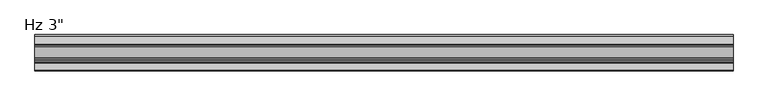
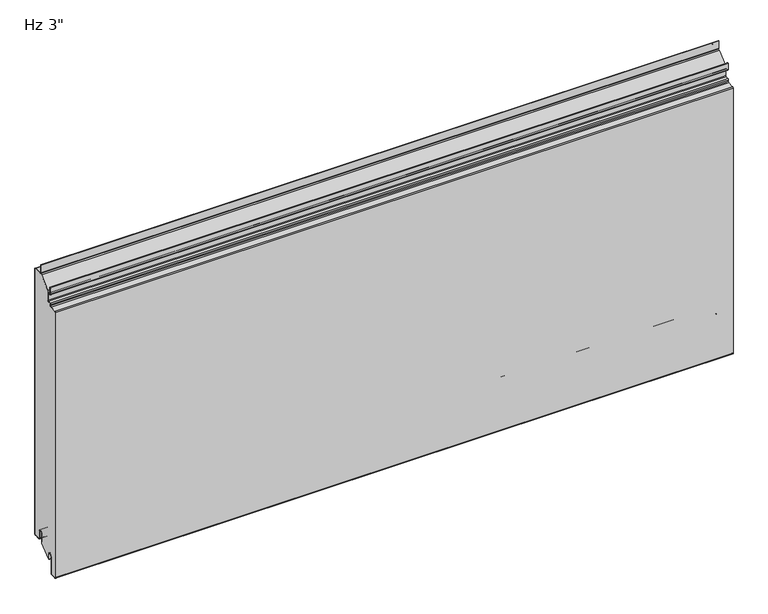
"""IFC4 building model written with IfcOpenShell, lengths in millimetres: plate geometry."""

from ifc_helpers import new_model, si_unit, point, frame, frame_2d, origin, place, context, project, spatial, polyline, circle_curve, ellipse_curve, trimmed, segment, composite_curve, outline, extrude, source, transform, mapped, element, save
from ifc_brep_helpers import plane_surface, cylinder_surface, revolved_surface, extruded_surface, advanced_brep


def plate_e3d8686c(model_context):
    return source(origin(), model_context, "Body", "SolidModel", [
        extrude(outline(composite_curve([segment(trimmed(circle_curve(frame_2d((-21.43125, 19.05)), 4.96875), [point((-16.4625, 19.05))], [point((-26.4, 19.05))], True, "CARTESIAN"), True, "CONTINUOUS"), segment(polyline([(-26.4, 19.05), (-26.4, -3.1323422), (-49.2157227, -23.01875), (-50.8, -23.01875), (-50.8, -13.5080174), (-51.59375, -13.5080174), (-51.3875, -11.9205174)]), True, "CONTINUOUS"), segment(trimmed(circle_curve(frame_2d((-56.35625, -11.9205174)), 4.96875), [point((-51.3875, -11.9205174))], [point((-61.325, -11.9205174))], True, "CARTESIAN"), True, "CONTINUOUS"), segment(polyline([(-61.325, -11.9205174), (-61.325, -50.1038221)]), True, "CONTINUOUS"), segment(trimmed(circle_curve(frame_2d((-62.70625, -50.1038221)), 1.38125), [point((-61.325, -50.1038221))], [point((-62.633961, -51.4831791))], False, "CARTESIAN"), True, "CONTINUOUS"), segment(polyline([(-62.633961, -51.4831791), (-73.746461, -52.0655606)]), True, "CONTINUOUS"), segment(trimmed(circle_curve(frame_2d((-73.81875, -50.6862035)), 1.38125), [point((-73.746461, -52.0655606))], [point((-75.2, -50.6862035))], False, "CARTESIAN"), True, "CONTINUOUS"), segment(polyline([(-75.2, -50.6862035), (-75.2, 552.5572607)]), True, "CONTINUOUS"), segment(trimmed(circle_curve(frame_2d((-73.81875, 552.5572607)), 1.38125), [point((-75.2, 552.5572607))], [point((-73.891039, 553.9366177))], False, "CARTESIAN"), True, "CONTINUOUS"), segment(polyline([(-73.891039, 553.9366177), (-60.1895807, 554.6546807)]), True, "CONTINUOUS"), segment(trimmed(circle_curve(frame_2d((-60.325, 557.2386347)), 2.5875), [point((-60.1895807, 554.6546807))], [point((-57.7375, 557.2386347))], True, "CARTESIAN"), True, "CONTINUOUS"), segment(polyline([(-57.7375, 557.2386347), (-57.7375, 560.2824411)]), True, "CONTINUOUS"), segment(trimmed(circle_curve(frame_2d((-56.35625, 560.2824411)), 1.38125), [point((-57.7375, 560.2824411))], [point((-56.428539, 561.6617981))], False, "CARTESIAN"), True, "CONTINUOUS"), segment(polyline([(-56.428539, 561.6617981), (-50.6645807, 561.9638744)]), True, "CONTINUOUS"), segment(trimmed(circle_curve(frame_2d((-50.8, 564.5478283)), 2.5875), [point((-50.6645807, 561.9638744))], [point((-48.2125, 564.5478283))], True, "CARTESIAN"), True, "CONTINUOUS"), segment(polyline([(-48.2125, 564.5478283), (-48.2125, 586.9892934), (-24.9057308, 607.80625), (-2.38125, 607.80625)]), True, "CONTINUOUS"), segment(trimmed(circle_curve(frame_2d((-2.38125, 606.425)), 1.38125), [point((-2.38125, 607.80625))], [point((-1.0, 606.425))], False, "CARTESIAN"), True, "CONTINUOUS"), segment(polyline([(-1.0, 606.425), (-1.0, 3.175)]), True, "CONTINUOUS"), segment(trimmed(circle_curve(frame_2d((-2.38125, 3.175)), 1.38125), [point((-1.0, 3.175))], [point((-2.38125, 1.79375))], False, "CARTESIAN"), True, "CONTINUOUS"), segment(polyline([(-2.38125, 1.79375), (-15.08125, 1.79375)]), True, "CONTINUOUS"), segment(trimmed(circle_curve(frame_2d((-15.08125, 3.175)), 1.38125), [point((-15.08125, 1.79375))], [point((-16.4625, 3.175))], False, "CARTESIAN"), True, "CONTINUOUS"), segment(polyline([(-16.4625, 3.175), (-16.4625, 19.05)]), True, "CONTINUOUS")], self_intersect=False)), frame((-730.0, 0.0, 0.0), z_axis=(1.0, 0.0, 0.0), x_axis=(0.0, 1.0, 0.0)), (0.0, 0.0, 1.0), 1460.0),
        extrude(outline(composite_curve([segment(polyline([(-25.4, 0.79375), (-26.4, 0.79375), (-26.4, 19.05)]), True, "CONTINUOUS"), segment(trimmed(circle_curve(frame_2d((-21.43125, 19.05)), 4.96875), [point((-26.4, 19.05))], [point((-16.4625, 19.05))], False, "CARTESIAN"), True, "CONTINUOUS"), segment(polyline([(-16.4625, 19.05), (-16.4625, 3.175)]), True, "CONTINUOUS"), segment(trimmed(circle_curve(frame_2d((-15.08125, 3.175)), 1.38125), [point((-16.4625, 3.175))], [point((-15.08125, 1.79375))], True, "CARTESIAN"), True, "CONTINUOUS"), segment(polyline([(-15.08125, 1.79375), (-2.38125, 1.79375)]), True, "CONTINUOUS"), segment(trimmed(circle_curve(frame_2d((-2.38125, 3.175)), 1.38125), [point((-2.38125, 1.79375))], [point((-1.0, 3.175))], True, "CARTESIAN"), True, "CONTINUOUS"), segment(polyline([(-1.0, 3.175), (-1.0, 606.425)]), True, "CONTINUOUS"), segment(trimmed(circle_curve(frame_2d((-2.38125, 606.425)), 1.38125), [point((-1.0, 606.425))], [point((-2.38125, 607.80625))], True, "CARTESIAN"), True, "CONTINUOUS"), segment(polyline([(-2.38125, 607.80625), (-19.446875, 607.80625)]), True, "CONTINUOUS"), segment(trimmed(circle_curve(frame_2d((-19.446875, 610.39375)), 2.5875), [point((-19.446875, 607.80625))], [point((-22.034375, 610.39375))], False, "CARTESIAN"), True, "CONTINUOUS"), segment(polyline([(-22.034375, 610.39375), (-22.034375, 627.85625), (-21.034375, 627.85625), (-21.034375, 610.39375)]), True, "CONTINUOUS"), segment(trimmed(circle_curve(frame_2d((-19.446875, 610.39375)), 1.5875), [point((-21.034375, 610.39375))], [point((-19.446875, 608.80625))], True, "CARTESIAN"), True, "CONTINUOUS"), segment(polyline([(-19.446875, 608.80625), (-2.38125, 608.80625)]), True, "CONTINUOUS"), segment(trimmed(circle_curve(frame_2d((-2.38125, 606.425)), 2.38125), [point((-2.38125, 608.80625))], [point((0.0, 606.425))], False, "CARTESIAN"), True, "CONTINUOUS"), segment(polyline([(0.0, 606.425), (0.0, 3.175)]), True, "CONTINUOUS"), segment(trimmed(circle_curve(frame_2d((-2.38125, 3.175)), 2.38125), [point((0.0, 3.175))], [point((-2.38125, 0.79375))], False, "CARTESIAN"), True, "CONTINUOUS"), segment(polyline([(-2.38125, 0.79375), (-15.08125, 0.79375)]), True, "CONTINUOUS"), segment(trimmed(circle_curve(frame_2d((-15.08125, 3.175)), 2.38125), [point((-15.08125, 0.79375))], [point((-17.4625, 3.175))], False, "CARTESIAN"), True, "CONTINUOUS"), segment(polyline([(-17.4625, 3.175), (-17.4625, 19.05)]), True, "CONTINUOUS"), segment(trimmed(circle_curve(frame_2d((-21.43125, 19.05)), 3.96875), [point((-17.4625, 19.05))], [point((-25.4, 19.05))], True, "CARTESIAN"), True, "CONTINUOUS"), segment(polyline([(-25.4, 19.05), (-25.4, 0.79375)]), True, "CONTINUOUS")], self_intersect=False)), frame((-730.0, 0.0, 0.0), z_axis=(1.0, 0.0, 0.0), x_axis=(0.0, 1.0, 0.0)), (0.0, 0.0, 1.0), 1460.0),
        advanced_brep(
        [(-730.0, -50.8, -23.2314549), (-730.0, -52.3875, -23.2314549), (-730.0, -52.3875, -11.9205174), (-730.0, -60.325, -11.9205174), (-730.0, -60.325, -50.1038221), (-730.0, -62.581625, -52.4818086), (-730.0, -73.694125, -53.0641901), (-730.0, -76.2, -50.6862035), (-730.0, -76.2, 552.5572607), (-730.0, -73.943375, 554.9352473), (-730.0, -60.2419167, 555.6533103), (-730.0, -58.7375, 557.2386347), (-730.0, -58.7375, 560.2824411), (-730.0, -56.480875, 562.6604276), (-730.0, -50.7169167, 562.9625039), (-730.0, -49.2125, 564.5478283), (-730.0, -49.2125, 579.4232326), (-730.0, -50.8, 581.0107326), (-730.0, -54.9671875, 581.0107326), (-730.0, -57.3484375, 583.3919826), (-730.0, -57.3484375, 597.8836032), (-730.0, -55.5546875, 597.8836032), (-730.0, -55.5546875, 588.1544826), (-730.0, -56.3484375, 588.1544826), (-730.0, -56.3484375, 583.3919826), (-730.0, -54.9671875, 582.0107326), (-730.0, -50.8, 582.0107326), (-730.0, -48.2125, 579.4232326), (-730.0, -48.2125, 564.5478283), (-730.0, -50.6645807, 561.9638744), (-730.0, -56.428539, 561.6617981), (-730.0, -57.7375, 560.2824411), (-730.0, -57.7375, 557.2386347), (-730.0, -60.1895807, 554.6546807), (-730.0, -73.891039, 553.9366177), (-730.0, -75.2, 552.5572607), (-730.0, -75.2, -50.6862035), (-730.0, -73.746461, -52.0655606), (-730.0, -62.633961, -51.4831791), (-730.0, -61.325, -50.1038221), (-730.0, -61.325, -11.9205174), (-730.0, -51.3875, -11.9205174), (-730.0, -51.59375, -13.5080174), (-730.0, -50.8, -13.5080174), (730.0, -50.8, -23.2314549), (730.0, -50.8, -13.5080174), (730.0, -51.59375, -13.5080174), (730.0, -51.3875, -11.9205174), (730.0, -61.325, -11.9205174), (730.0, -61.325, -50.1038221), (730.0, -62.633961, -51.4831791), (730.0, -73.746461, -52.0655606), (730.0, -75.2, -50.6862035), (730.0, -75.2, 552.5572607), (730.0, -73.891039, 553.9366177), (730.0, -60.1895807, 554.6546807), (730.0, -57.7375, 557.2386347), (730.0, -57.7375, 560.2824411), (730.0, -56.428539, 561.6617981), (730.0, -50.6645807, 561.9638744), (730.0, -48.2125, 564.5478283), (730.0, -48.2125, 579.4232326), (730.0, -50.8, 582.0107326), (730.0, -54.9671875, 582.0107326), (730.0, -56.3484375, 583.3919826), (730.0, -56.3484375, 588.1544826), (730.0, -55.5546875, 588.1544826), (730.0, -55.5546875, 597.8836032), (730.0, -57.3484375, 597.8836032), (730.0, -57.3484375, 583.3919826), (730.0, -54.9671875, 581.0107326), (730.0, -50.8, 581.0107326), (730.0, -49.2125, 579.4232326), (730.0, -49.2125, 564.5478283), (730.0, -50.7169167, 562.9625039), (730.0, -56.480875, 562.6604276), (730.0, -58.7375, 560.2824411), (730.0, -58.7375, 557.2386347), (730.0, -60.2419167, 555.6533103), (730.0, -73.943375, 554.9352473), (730.0, -76.2, 552.5572607), (730.0, -76.2, -50.6862035), (730.0, -73.694125, -53.0641901), (730.0, -62.581625, -52.4818086), (730.0, -60.325, -50.1038221), (730.0, -60.325, -11.9205174), (730.0, -52.3875, -11.9205174), (730.0, -52.3875, -23.2314549)],
        [
            (0, 1, circle_curve(frame((-730.0, -51.59375, -23.2314549), z_axis=(-1.0, 0.0, 0.0), x_axis=(0.0, 0.0, 1.0)), 0.79375)),
            (1, 2),
            (2, 3, circle_curve(frame((-730.0, -56.35625, -11.9205174), z_axis=(1.0, 0.0, 0.0), x_axis=(0.0, 0.0, 1.0)), 3.96875)),
            (3, 4),
            (4, 5, circle_curve(frame((-730.0, -62.70625, -50.1038221), z_axis=(-1.0, 0.0, 0.0), x_axis=(0.0, 0.0, 1.0)), 2.38125)),
            (5, 6),
            (6, 7, circle_curve(frame((-730.0, -73.81875, -50.6862035), z_axis=(-1.0, 0.0, 0.0), x_axis=(0.0, 0.0, 1.0)), 2.38125)),
            (7, 8),
            (8, 9, circle_curve(frame((-730.0, -73.81875, 552.5572607), z_axis=(-1.0, 0.0, 0.0), x_axis=(0.0, 0.0, 1.0)), 2.38125)),
            (9, 10),
            (10, 11, circle_curve(frame((-730.0, -60.325, 557.2386347), z_axis=(1.0, 0.0, 0.0), x_axis=(0.0, 0.0, 1.0)), 1.5875)),
            (11, 12),
            (12, 13, circle_curve(frame((-730.0, -56.35625, 560.2824411), z_axis=(-1.0, 0.0, 0.0), x_axis=(0.0, 0.0, 1.0)), 2.38125)),
            (13, 14),
            (14, 15, circle_curve(frame((-730.0, -50.8, 564.5478283), z_axis=(1.0, 0.0, 0.0), x_axis=(0.0, 0.0, 1.0)), 1.5875)),
            (15, 16),
            (16, 17, circle_curve(frame((-730.0, -50.8, 579.4232326), z_axis=(1.0, 0.0, 0.0), x_axis=(0.0, 0.0, 1.0)), 1.5875)),
            (17, 18),
            (18, 19, circle_curve(frame((-730.0, -54.9671875, 583.3919826), z_axis=(-1.0, 0.0, 0.0), x_axis=(0.0, 0.0, 1.0)), 2.38125)),
            (19, 20),
            (20, 21, ellipse_curve(frame((-730.0, -56.4515625, 597.8836032), z_axis=(-1.0, 0.0, 0.0), x_axis=(0.0, 1.0, 0.0)), 0.896875, 0.7852275)),
            (21, 22),
            (22, 23),
            (23, 24),
            (24, 25, circle_curve(frame((-730.0, -54.9671875, 583.3919826), z_axis=(1.0, 0.0, 0.0), x_axis=(0.0, 0.0, 1.0)), 1.38125)),
            (25, 26),
            (26, 27, circle_curve(frame((-730.0, -50.8, 579.4232326), z_axis=(-1.0, 0.0, 0.0), x_axis=(0.0, 0.0, 1.0)), 2.5875)),
            (27, 28),
            (28, 29, circle_curve(frame((-730.0, -50.8, 564.5478283), z_axis=(-1.0, 0.0, 0.0), x_axis=(0.0, 0.0, 1.0)), 2.5875)),
            (29, 30),
            (30, 31, circle_curve(frame((-730.0, -56.35625, 560.2824411), z_axis=(1.0, 0.0, 0.0), x_axis=(0.0, 0.0, 1.0)), 1.38125)),
            (31, 32),
            (32, 33, circle_curve(frame((-730.0, -60.325, 557.2386347), z_axis=(-1.0, 0.0, 0.0), x_axis=(0.0, 0.0, 1.0)), 2.5875)),
            (33, 34),
            (34, 35, circle_curve(frame((-730.0, -73.81875, 552.5572607), z_axis=(1.0, 0.0, 0.0), x_axis=(0.0, 0.0, 1.0)), 1.38125)),
            (35, 36),
            (36, 37, circle_curve(frame((-730.0, -73.81875, -50.6862035), z_axis=(1.0, 0.0, 0.0), x_axis=(0.0, 0.0, 1.0)), 1.38125)),
            (37, 38),
            (38, 39, circle_curve(frame((-730.0, -62.70625, -50.1038221), z_axis=(1.0, 0.0, 0.0), x_axis=(0.0, 0.0, 1.0)), 1.38125)),
            (39, 40),
            (40, 41, circle_curve(frame((-730.0, -56.35625, -11.9205174), z_axis=(-1.0, 0.0, 0.0), x_axis=(0.0, 0.0, 1.0)), 4.96875)),
            (41, 42),
            (42, 43),
            (43, 0),
            (44, 45),
            (45, 46),
            (46, 47),
            (47, 48, circle_curve(frame((730.0, -56.35625, -11.9205174), z_axis=(1.0, 0.0, 0.0), x_axis=(0.0, 0.0, 1.0)), 4.96875)),
            (48, 49),
            (49, 50, circle_curve(frame((730.0, -62.70625, -50.1038221), z_axis=(-1.0, 0.0, 0.0), x_axis=(0.0, 0.0, 1.0)), 1.38125)),
            (50, 51),
            (51, 52, circle_curve(frame((730.0, -73.81875, -50.6862035), z_axis=(-1.0, 0.0, 0.0), x_axis=(0.0, 0.0, 1.0)), 1.38125)),
            (52, 53),
            (53, 54, circle_curve(frame((730.0, -73.81875, 552.5572607), z_axis=(-1.0, 0.0, 0.0), x_axis=(0.0, 0.0, 1.0)), 1.38125)),
            (54, 55),
            (55, 56, circle_curve(frame((730.0, -60.325, 557.2386347), z_axis=(1.0, 0.0, 0.0), x_axis=(0.0, 0.0, 1.0)), 2.5875)),
            (56, 57),
            (57, 58, circle_curve(frame((730.0, -56.35625, 560.2824411), z_axis=(-1.0, 0.0, 0.0), x_axis=(0.0, 0.0, 1.0)), 1.38125)),
            (58, 59),
            (59, 60, circle_curve(frame((730.0, -50.8, 564.5478283), z_axis=(1.0, 0.0, 0.0), x_axis=(0.0, 0.0, 1.0)), 2.5875)),
            (60, 61),
            (61, 62, circle_curve(frame((730.0, -50.8, 579.4232326), z_axis=(1.0, 0.0, 0.0), x_axis=(0.0, 0.0, 1.0)), 2.5875)),
            (62, 63),
            (63, 64, circle_curve(frame((730.0, -54.9671875, 583.3919826), z_axis=(-1.0, 0.0, 0.0), x_axis=(0.0, 0.0, 1.0)), 1.38125)),
            (64, 65),
            (65, 66),
            (66, 67),
            (67, 68, ellipse_curve(frame((730.0, -56.4515625, 597.8836032), z_axis=(1.0, 0.0, 0.0), x_axis=(0.0, 1.0, 0.0)), 0.896875, 0.7852275)),
            (68, 69),
            (69, 70, circle_curve(frame((730.0, -54.9671875, 583.3919826), z_axis=(1.0, 0.0, 0.0), x_axis=(0.0, 0.0, 1.0)), 2.38125)),
            (70, 71),
            (71, 72, circle_curve(frame((730.0, -50.8, 579.4232326), z_axis=(-1.0, 0.0, 0.0), x_axis=(0.0, 0.0, 1.0)), 1.5875)),
            (72, 73),
            (73, 74, circle_curve(frame((730.0, -50.8, 564.5478283), z_axis=(-1.0, 0.0, 0.0), x_axis=(0.0, 0.0, 1.0)), 1.5875)),
            (74, 75),
            (75, 76, circle_curve(frame((730.0, -56.35625, 560.2824411), z_axis=(1.0, 0.0, 0.0), x_axis=(0.0, 0.0, 1.0)), 2.38125)),
            (76, 77),
            (77, 78, circle_curve(frame((730.0, -60.325, 557.2386347), z_axis=(-1.0, 0.0, 0.0), x_axis=(0.0, 0.0, 1.0)), 1.5875)),
            (78, 79),
            (79, 80, circle_curve(frame((730.0, -73.81875, 552.5572607), z_axis=(1.0, 0.0, 0.0), x_axis=(0.0, 0.0, 1.0)), 2.38125)),
            (80, 81),
            (81, 82, circle_curve(frame((730.0, -73.81875, -50.6862035), z_axis=(1.0, 0.0, 0.0), x_axis=(0.0, 0.0, 1.0)), 2.38125)),
            (82, 83),
            (83, 84, circle_curve(frame((730.0, -62.70625, -50.1038221), z_axis=(1.0, 0.0, 0.0), x_axis=(0.0, 0.0, 1.0)), 2.38125)),
            (84, 85),
            (85, 86, circle_curve(frame((730.0, -56.35625, -11.9205174), z_axis=(-1.0, 0.0, 0.0), x_axis=(0.0, 0.0, 1.0)), 3.96875)),
            (86, 87),
            (87, 44, circle_curve(frame((730.0, -51.59375, -23.2314549), z_axis=(1.0, 0.0, 0.0), x_axis=(0.0, 0.0, 1.0)), 0.79375)),
            (23, 65),
            (64, 24),
            (28, 60),
            (59, 29),
            (58, 30),
            (57, 31),
            (56, 32),
            (55, 33),
            (54, 34),
            (37, 51),
            (50, 38),
            (49, 39),
            (48, 40),
            (43, 45),
            (44, 0),
            (87, 1),
            (86, 2),
            (85, 3),
            (84, 4),
            (83, 5),
            (82, 6),
            (9, 79),
            (78, 10),
            (77, 11),
            (76, 12),
            (75, 13),
            (74, 14),
            (73, 15),
            (72, 16),
            (71, 17),
            (70, 18),
            (69, 19),
            (27, 61),
            (26, 62),
            (25, 63),
            (21, 67),
            (66, 22),
            (20, 68),
            (41, 47),
            (46, 42),
            (53, 35),
            (52, 36),
            (81, 7),
            (80, 8),
        ],
        [
            plane_surface(frame((-730.0, -76.2, 304.8), z_axis=(-1.0, 0.0, 0.0), x_axis=(0.0, -1.0, 0.0))),
            plane_surface(frame((730.0, -76.2, 304.8), z_axis=(1.0, 0.0, 0.0), x_axis=(0.0, -1.0, 0.0))),
            plane_surface(frame((-730.0, -56.3484375, 583.3919826), z_axis=(0.0, 1.0, 0.0), x_axis=(1.0, 0.0, 0.0))),
            cylinder_surface(frame((-730.0, -50.8, 564.5478283), z_axis=(-1.0, 0.0, 0.0), x_axis=(0.0, 0.0, 1.0)), 2.5875),
            plane_surface(frame((-730.0, -56.428539, 561.6617981), z_axis=(0.0, 0.0523359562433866, -0.9986295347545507), x_axis=(1.0, 0.0, 0.0))),
            revolved_surface(polyline([(730.0, -56.35625, 561.6636911), (-730.0, -56.35625, 561.6636911)]), (-730.0, -56.35625, 560.2824411), (1.0, 0.0, 0.0)),
            plane_surface(frame((-730.0, -57.7375, 557.2386347), z_axis=(0.0, 1.0, 0.0), x_axis=(1.0, 0.0, 0.0))),
            cylinder_surface(frame((-730.0, -60.325, 557.2386347), z_axis=(-1.0, 0.0, 0.0), x_axis=(0.0, 0.0, 1.0)), 2.5875),
            plane_surface(frame((-730.0, -73.891039, 553.9366177), z_axis=(0.0, 0.05233595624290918, -0.9986295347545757), x_axis=(1.0, 0.0, 0.0))),
            plane_surface(frame((-730.0, -62.633961, -51.4831791), z_axis=(0.0, -0.05233595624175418, 0.9986295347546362), x_axis=(1.0, 0.0, 0.0))),
            revolved_surface(polyline([(730.0, -62.70625, -48.7225721), (-730.0, -62.70625, -48.7225721)]), (-730.0, -62.70625, -50.1038221), (1.0, 0.0, 0.0)),
            plane_surface(frame((-730.0, -61.325, -11.9205174), z_axis=(0.0, -1.0, 0.0), x_axis=(1.0, 0.0, 0.0))),
            plane_surface(frame((-730.0, -50.8, -23.2314549), z_axis=(0.0, 1.0, 0.0), x_axis=(1.0, 0.0, 0.0))),
            cylinder_surface(frame((-730.0, -51.59375, -23.2314549), z_axis=(-1.0, 0.0, 0.0), x_axis=(0.0, 0.0, 1.0)), 0.79375),
            plane_surface(frame((-730.0, -52.3875, -11.9205174), z_axis=(0.0, -1.0, 0.0), x_axis=(1.0, 0.0, 0.0))),
            revolved_surface(polyline([(730.0, -56.35625, -7.9517674), (-730.0, -56.35625, -7.9517674)]), (-730.0, -56.35625, -11.9205174), (1.0, 0.0, 0.0)),
            plane_surface(frame((-730.0, -60.325, -50.1038221), z_axis=(0.0, 1.0, 0.0), x_axis=(1.0, 0.0, 0.0))),
            cylinder_surface(frame((-730.0, -62.70625, -50.1038221), z_axis=(-1.0, 0.0, 0.0), x_axis=(0.0, 0.0, 1.0)), 2.38125),
            plane_surface(frame((-730.0, -73.694125, -53.0641901), z_axis=(0.0, 0.05233595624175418, -0.9986295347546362), x_axis=(1.0, 0.0, 0.0))),
            plane_surface(frame((-730.0, -60.2419167, 555.6533103), z_axis=(0.0, -0.052335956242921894, 0.998629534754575), x_axis=(1.0, 0.0, 0.0))),
            revolved_surface(polyline([(730.0, -60.325, 558.8261347), (-730.0, -60.325, 558.8261347)]), (-730.0, -60.325, 557.2386347), (1.0, 0.0, 0.0)),
            plane_surface(frame((-730.0, -58.7375, 560.2824411), z_axis=(0.0, -1.0, 0.0), x_axis=(1.0, 0.0, 0.0))),
            cylinder_surface(frame((-730.0, -56.35625, 560.2824411), z_axis=(-1.0, 0.0, 0.0), x_axis=(0.0, 0.0, 1.0)), 2.38125),
            plane_surface(frame((-730.0, -50.7169167, 562.9625039), z_axis=(0.0, -0.05233595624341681, 0.9986295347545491), x_axis=(1.0, 0.0, 0.0))),
            revolved_surface(polyline([(730.0, -50.8, 566.1353283), (-730.0, -50.8, 566.1353283)]), (-730.0, -50.8, 564.5478283), (1.0, 0.0, 0.0)),
            plane_surface(frame((-730.0, -49.2125, 579.4232326), z_axis=(0.0, -1.0, 0.0), x_axis=(1.0, 0.0, 0.0))),
            revolved_surface(polyline([(730.0, -50.8, 581.0107326), (-730.0, -50.8, 581.0107326)]), (-730.0, -50.8, 579.4232326), (1.0, 0.0, 0.0)),
            plane_surface(frame((-730.0, -54.9671875, 581.0107326), z_axis=(0.0, 0.0, -1.0), x_axis=(1.0, 0.0, 0.0))),
            cylinder_surface(frame((-730.0, -54.9671875, 583.3919826), z_axis=(-1.0, 0.0, 0.0), x_axis=(0.0, 0.0, 1.0)), 2.38125),
            plane_surface(frame((-730.0, -48.2125, 564.5478283), z_axis=(0.0, 1.0, 0.0), x_axis=(1.0, 0.0, 0.0))),
            cylinder_surface(frame((-730.0, -50.8, 579.4232326), z_axis=(-1.0, 0.0, 0.0), x_axis=(0.0, 0.0, 1.0)), 2.5875),
            plane_surface(frame((-730.0, -50.8, 582.0107326), z_axis=(0.0, 0.0, 1.0), x_axis=(1.0, 0.0, 0.0))),
            revolved_surface(polyline([(730.0, -54.9671875, 584.7732326), (-730.0, -54.9671875, 584.7732326)]), (-730.0, -54.9671875, 583.3919826), (1.0, 0.0, 0.0)),
            plane_surface(frame((-730.0, -55.5546875, 588.1544826), z_axis=(0.0, 1.0, 0.0), x_axis=(1.0, 0.0, 0.0))),
            extruded_surface(trimmed(ellipse_curve(frame((-730.0, -56.4515625, 597.8836032), z_axis=(1.0, 0.0, 0.0), x_axis=(0.0, 1.0, 0.0)), 0.896875, 0.7852275), [point((-730.0, -55.5546875, 597.8836032))], [point((-730.0, -57.3484375, 597.8836032))], True, "CARTESIAN"), (1460.0, 0.0, 0.0), 1460.0),
            plane_surface(frame((-730.0, -51.59375, -13.5080174), z_axis=(0.0, 0.9916655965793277, -0.12883844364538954), x_axis=(1.0, 0.0, 0.0))),
            cylinder_surface(frame((-730.0, -56.35625, -11.9205174), z_axis=(-1.0, 0.0, 0.0), x_axis=(0.0, 0.0, 1.0)), 4.96875),
            plane_surface(frame((-730.0, -50.8, -13.5080174), z_axis=(0.0, 0.0, 1.0), x_axis=(1.0, 0.0, 0.0))),
            plane_surface(frame((-730.0, -56.3484375, 588.1544826), z_axis=(0.0, 0.0, -1.0), x_axis=(1.0, 0.0, 0.0))),
            revolved_surface(polyline([(730.0, -73.81875, 553.9385107), (-730.0, -73.81875, 553.9385107)]), (-730.0, -73.81875, 552.5572607), (1.0, 0.0, 0.0)),
            plane_surface(frame((-730.0, -75.2, -50.6862035), z_axis=(0.0, 1.0, 0.0), x_axis=(1.0, 0.0, 0.0))),
            revolved_surface(polyline([(730.0, -73.81875, -49.304953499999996), (-730.0, -73.81875, -49.304953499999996)]), (-730.0, -73.81875, -50.6862035), (1.0, 0.0, 0.0)),
            cylinder_surface(frame((-730.0, -73.81875, -50.6862035), z_axis=(-1.0, 0.0, 0.0), x_axis=(0.0, 0.0, 1.0)), 2.38125),
            plane_surface(frame((-730.0, -76.2, 552.5572607), z_axis=(0.0, -1.0, 0.0), x_axis=(1.0, 0.0, 0.0))),
            cylinder_surface(frame((-730.0, -73.81875, 552.5572607), z_axis=(-1.0, 0.0, 0.0), x_axis=(0.0, 0.0, 1.0)), 2.38125),
            plane_surface(frame((-730.0, -57.3484375, 597.8836032), z_axis=(0.0, -1.0, 0.0), x_axis=(1.0, 0.0, 0.0))),
        ],
        [
            (0, [[1, 2, 3, 4, 5, 6, 7, 8, 9, 10, 11, 12, 13, 14, 15, 16, 17, 18, 19, 20, 21, 22, 23, 24, 25, 26, 27, 28, 29, 30, 31, 32, 33, 34, 35, 36, 37, 38, 39, 40, 41, 42, 43, 44]]),
            (1, [[45, 46, 47, 48, 49, 50, 51, 52, 53, 54, 55, 56, 57, 58, 59, 60, 61, 62, 63, 64, 65, 66, 67, 68, 69, 70, 71, 72, 73, 74, 75, 76, 77, 78, 79, 80, 81, 82, 83, 84, 85, 86, 87, 88]]),
            (2, [[89, -65, 90, -24]]),
            (3, [[91, -60, 92, -29]]),
            (4, [[-92, -59, 93, -30]]),
            (5, [[-93, -58, 94, -31]]),
            (6, [[-94, -57, 95, -32]]),
            (7, [[-95, -56, 96, -33]]),
            (8, [[-96, -55, 97, -34]]),
            (9, [[98, -51, 99, -38]]),
            (10, [[-99, -50, 100, -39]]),
            (11, [[-100, -49, 101, -40]]),
            (12, [[102, -45, 103, -44]]),
            (13, [[-103, -88, 104, -1]]),
            (14, [[-104, -87, 105, -2]]),
            (15, [[-105, -86, 106, -3]]),
            (16, [[-106, -85, 107, -4]]),
            (17, [[-107, -84, 108, -5]]),
            (18, [[-108, -83, 109, -6]]),
            (19, [[110, -79, 111, -10]]),
            (20, [[-111, -78, 112, -11]]),
            (21, [[-112, -77, 113, -12]]),
            (22, [[-113, -76, 114, -13]]),
            (23, [[-114, -75, 115, -14]]),
            (24, [[-115, -74, 116, -15]]),
            (25, [[-116, -73, 117, -16]]),
            (26, [[-117, -72, 118, -17]]),
            (27, [[-118, -71, 119, -18]]),
            (28, [[-119, -70, 120, -19]]),
            (29, [[121, -61, -91, -28]]),
            (30, [[122, -62, -121, -27]]),
            (31, [[123, -63, -122, -26]]),
            (32, [[-90, -64, -123, -25]]),
            (33, [[124, -67, 125, -22]]),
            (34, [[126, -68, -124, -21]]),
            (35, [[127, -47, 128, -42]]),
            (36, [[-101, -48, -127, -41]]),
            (37, [[-128, -46, -102, -43]]),
            (38, [[-125, -66, -89, -23]]),
            (39, [[-97, -54, 129, -35]]),
            (40, [[-129, -53, 130, -36]]),
            (41, [[-130, -52, -98, -37]]),
            (42, [[-109, -82, 131, -7]]),
            (43, [[-131, -81, 132, -8]]),
            (44, [[-132, -80, -110, -9]]),
            (45, [[-120, -69, -126, -20]]),
        ],
    ),
    ])


if __name__ == "__main__":
    model = new_model("IFC4")
    model_context = context("Model", 3, world=origin())
    ifc_project = project(units=[si_unit("LENGTHUNIT", "METRE", prefix="MILLI")], contexts=[model_context])
    site = spatial("IfcSite", under=ifc_project)
    building = spatial("IfcBuilding", under=site)
    placement = place(None, origin())
    plate_shape = plate_e3d8686c(model_context)
    element("IfcPlate", 1, ObjectType="KIP-24-DWTR-R19-CP-Hz-F : Hz 3\"", at=placement, inside=building, context=model_context, shape_type="MappedRepresentation", body=[
        mapped(plate_shape, transform((0.0, 0.0, 0.0), x_axis=(1.0, 0.0, 0.0), y_axis=(0.0, 1.0, 0.0), z_axis=(0.0, 0.0, 1.0))),
    ])
    save(model, "model.ifc")
